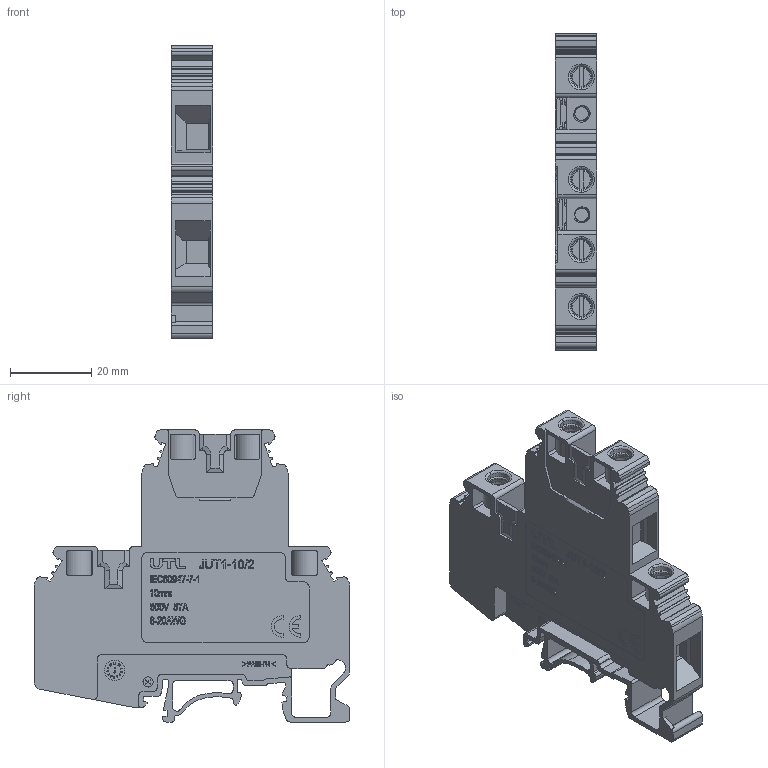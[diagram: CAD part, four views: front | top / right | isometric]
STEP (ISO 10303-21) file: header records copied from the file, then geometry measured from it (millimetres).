
FILE_DESCRIPTION(/* description */ (''),/* implementation_level */ '2;1');
FILE_NAME(/* name */ 'JUT1-10-2.stp',/* time_stamp */ '2024-03-21T16:17:24+08:00',/* author */ (''),/* organization */ (''),/* preprocessor_version */ 'ST-DEVELOPER v16.7',/* originating_system */ 'SIEMENS PLM Software NX 12.0',/* authorisation */ '');
FILE_SCHEMA (('AUTOMOTIVE_DESIGN { 1 0 10303 214 3 1 1 1 }'));
Products named in the file (1): Admi38D4FBE5ongs
Bounding box: 10.2 x 77.7 x 71.8 mm (x, y, z)
Volume: 18704.4 mm3; surface area: 20622.8 mm2
Topology: 1 solids, 1 shells, 2171 faces, 5936 edges, 3881 vertices
Faces by surface type: plane 1065, extrusion 548, cylinder 440, cone 77, bspline 22, torus 16, sphere 3
Entity records: 79288 total; most frequent: CARTESIAN_POINT 24803, ORIENTED_EDGE 11872, DIRECTION 9222, EDGE_CURVE 5936, VECTOR 4320, VERTEX_POINT 3881, LINE 3772, AXIS2_PLACEMENT_3D 2451
